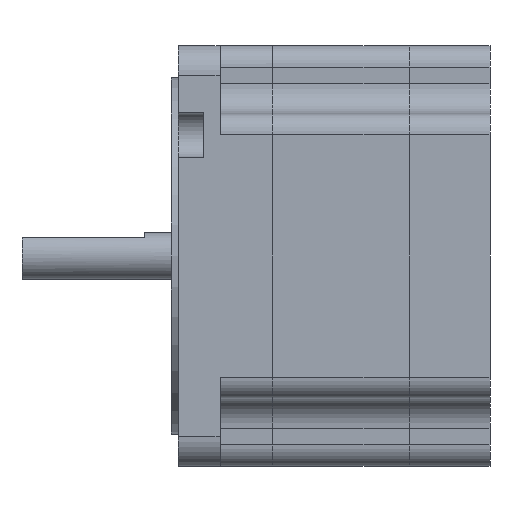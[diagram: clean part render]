
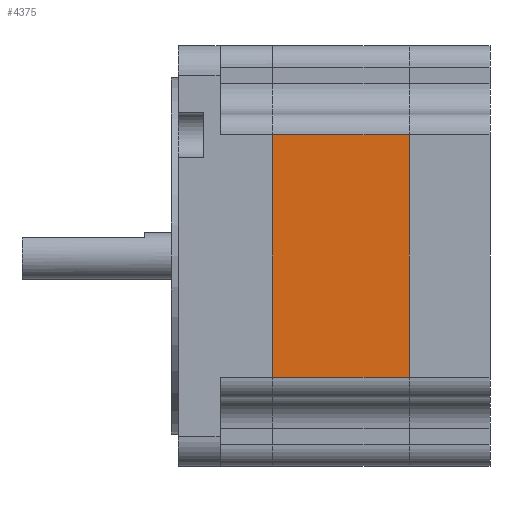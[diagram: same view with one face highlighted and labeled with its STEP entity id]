
A CAD part, left-side view. The second image highlights one B-rep face of the part: STEP entity #4375.
In plain terms, the highlighted planar face has unit normal (-1, 0, 0).
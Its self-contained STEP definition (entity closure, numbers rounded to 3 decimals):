
#14 = VECTOR ( 'NONE', #2975, 1000. ) ;
#82 = VECTOR ( 'NONE', #1021, 1000. ) ;
#114 = LINE ( 'NONE', #369, #2986 ) ;
#123 = EDGE_CURVE ( 'NONE', #5006, #4264, #3129, .T. ) ;
#369 = CARTESIAN_POINT ( 'NONE',  ( 0., 0., -67.8 ) ) ;
#779 = DIRECTION ( 'NONE',  ( 0., -1., 0. ) ) ;
#920 = CARTESIAN_POINT ( 'NONE',  ( 0., 28., -18.2 ) ) ;
#1021 = DIRECTION ( 'NONE',  ( 0., 0., 1. ) ) ;
#1046 = ORIENTED_EDGE ( 'NONE', *, *, #123, .T. ) ;
#1380 = DIRECTION ( 'NONE',  ( 1., 0., 0. ) ) ;
#1455 = ORIENTED_EDGE ( 'NONE', *, *, #3613, .F. ) ;
#1553 = CARTESIAN_POINT ( 'NONE',  ( 0., 28., -18.2 ) ) ;
#1753 = LINE ( 'NONE', #1553, #3571 ) ;
#1804 = CARTESIAN_POINT ( 'NONE',  ( 0., 28., -67.8 ) ) ;
#1833 = ORIENTED_EDGE ( 'NONE', *, *, #2821, .F. ) ;
#2137 = PLANE ( 'NONE',  #4026 ) ;
#2163 = LINE ( 'NONE', #3345, #82 ) ;
#2517 = EDGE_LOOP ( 'NONE', ( #3619, #1833, #1455, #1046 ) ) ;
#2551 = VERTEX_POINT ( 'NONE', #920 ) ;
#2672 = CARTESIAN_POINT ( 'NONE',  ( 0., 28., -67.8 ) ) ;
#2821 = EDGE_CURVE ( 'NONE', #2551, #4769, #1753, .T. ) ;
#2975 = DIRECTION ( 'NONE',  ( 0., -1., 0. ) ) ;
#2986 = VECTOR ( 'NONE', #4668, 1000. ) ;
#3129 = LINE ( 'NONE', #1804, #14 ) ;
#3345 = CARTESIAN_POINT ( 'NONE',  ( 0., 28., -67.8 ) ) ;
#3571 = VECTOR ( 'NONE', #779, 1000. ) ;
#3613 = EDGE_CURVE ( 'NONE', #5006, #2551, #2163, .T. ) ;
#3619 = ORIENTED_EDGE ( 'NONE', *, *, #4655, .T. ) ;
#3717 = CARTESIAN_POINT ( 'NONE',  ( 0., 28., -67.8 ) ) ;
#4023 = CARTESIAN_POINT ( 'NONE',  ( 0., 0., -67.8 ) ) ;
#4026 = AXIS2_PLACEMENT_3D ( 'NONE', #3717, #1380, #4108 ) ;
#4095 = FACE_OUTER_BOUND ( 'NONE', #2517, .T. ) ;
#4108 = DIRECTION ( 'NONE',  ( 0., 0., -1. ) ) ;
#4264 = VERTEX_POINT ( 'NONE', #4023 ) ;
#4375 = ADVANCED_FACE ( 'NONE', ( #4095 ), #2137, .F. ) ;
#4655 = EDGE_CURVE ( 'NONE', #4264, #4769, #114, .T. ) ;
#4668 = DIRECTION ( 'NONE',  ( 0., 0., 1. ) ) ;
#4750 = CARTESIAN_POINT ( 'NONE',  ( 0., 0., -18.2 ) ) ;
#4769 = VERTEX_POINT ( 'NONE', #4750 ) ;
#5006 = VERTEX_POINT ( 'NONE', #2672 ) ;
